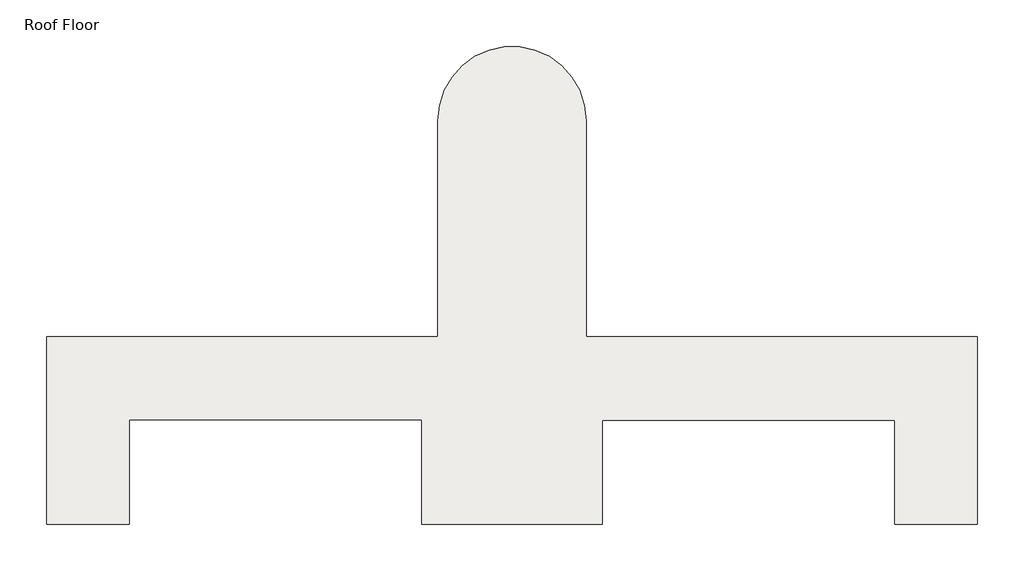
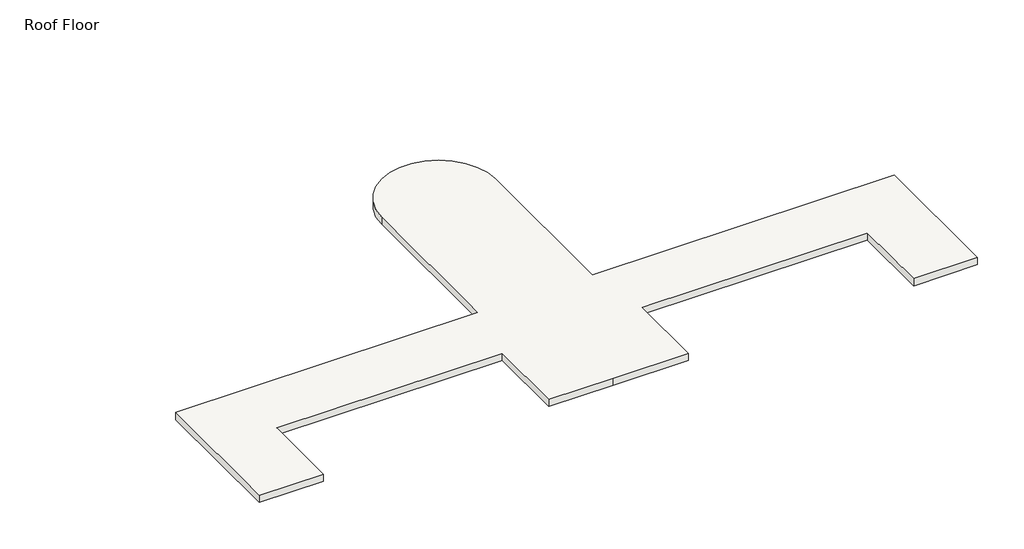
# One storey: 1 roof.
"""IFC4 building model written with IfcOpenShell, lengths in millimetres."""

from ifc_helpers import new_model, si_unit, point, frame, frame_2d, origin, place, context, project, spatial, polyline, circle_curve, trimmed, segment, composite_curve, outline, extrude, element, save

model = new_model("IFC4")

# Units and contexts
model_context = context("Model", 3, world=origin())
ifc_project = project(units=[si_unit("LENGTHUNIT", "METRE", prefix="MILLI")], contexts=[model_context])

# Site, building, storey
site = spatial("IfcSite", under=ifc_project)
building = spatial("IfcBuilding", under=site)
storey = spatial("IfcBuildingStorey", under=building, Name="Roof Floor", Elevation=12192.0)

# Roof
placement = place(None, origin())
element("IfcRoof", 1, ObjectType="Generic - 9\"", at=placement, inside=storey, context=model_context, shape_type="SweptSolid", body=[
    extrude(outline(composite_curve([segment(polyline([(-17118.4024687, 167.7883812), (-17118.4024687, 4539.7633812), (-7974.4024687, 4539.7633812), (-7974.4024687, 9592.7758812)]), True, "CONTINUOUS"), segment(trimmed(circle_curve(frame_2d((-6245.6149687, 9592.7758812)), 1728.7875), [point((-7974.4024687, 9592.7758812))], [point((-4516.8274687, 9592.7758812))], False, "CARTESIAN"), True, "CONTINUOUS"), segment(polyline([(-4516.8274687, 9592.7758812), (-4516.8274687, 4539.7633812), (4627.1725313, 4539.7633812), (4627.1725313, 167.7883812), (2693.5975313, 167.7883812), (2693.5975313, 2593.4883812), (-4135.8274687, 2593.4883812), (-4135.8274687, 167.7883812), (-6421.8274687, 167.7883812), (-8355.4024687, 167.7883812), (-8355.4024687, 2606.1883812), (-15184.8274687, 2606.1883812), (-15184.8274687, 167.7883812), (-17118.4024687, 167.7883812)]), True, "CONTINUOUS")], self_intersect=False)), frame((0.0, 0.0, 12192.0), z_axis=(0.0, 0.0, 1.0), x_axis=(1.0, 0.0, 0.0)), (0.0, 0.0, 1.0), 228.6),
])

save(model, "model.ifc")
